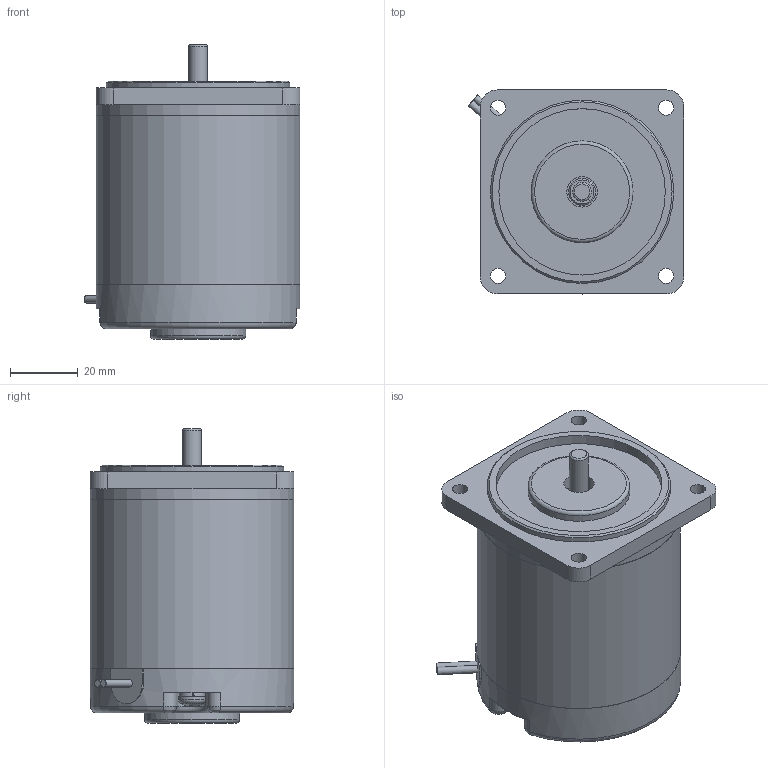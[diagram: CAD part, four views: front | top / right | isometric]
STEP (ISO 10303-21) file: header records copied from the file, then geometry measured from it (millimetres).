
FILE_DESCRIPTION((''),'2;1');
FILE_NAME('D:\연구개발부2팀 1파트\10_진행업무\3D_60각\S6D06-ㅁCH.stp','2013-06-05T15:17:07',('song'),(''),'Autodesk Inventor 2011','Autodesk Inventor 2011','');
FILE_SCHEMA(('AUTOMOTIVE_DESIGN { 1 0 10303 214 1 1 1 1 }'));
Length unit declared in the file: millimetre
Products named in the file (9): S6D15-12; FRONT HOUSING; REAR HOUSING ASS'Y; REAR HOUSING; cord bush; NF EN ISO 7045 - Z M4 x 40 - 4.8 - Z; AS 1968 4; PIPE HOUSING; shaft_chisl
Assembly tree (9 placements, depth 2):
  S6D15-12
    FRONT HOUSING
    PIPE HOUSING
    shaft_chisl
  REAR HOUSING ASS'Y
    REAR HOUSING
    cord bush
    NF EN ISO 7045 - Z M4 x 40 - 4.8 - Z  x2
    AS 1968 4  x2
Bounding box: 63.59 x 60 x 86.7 mm (x, y, z)
Volume: 199836.6 mm3; surface area: 36505.1 mm2
Topology: 9 solids, 9 shells, 184 faces, 422 edges, 266 vertices
Faces by surface type: plane 82, cylinder 43, cone 36, torus 17, bspline 4, sphere 2
Full cylindrical faces by diameter (mm): 2.2 x2, 3.621 x2, 4 x2, 4.5 x6, 5.57 x1, 8 x1, 9 x1, 28 x1, 30 x1, 49 x1, 54 x1, 55 x1, 60 x3
Entity records: 4395 total; most frequent: CARTESIAN_POINT 1155, DIRECTION 675, ORIENTED_EDGE 546, AXIS2_PLACEMENT_3D 297, EDGE_CURVE 273, VERTEX_POINT 189, EDGE_LOOP 189, FACE_OUTER_BOUND 136
